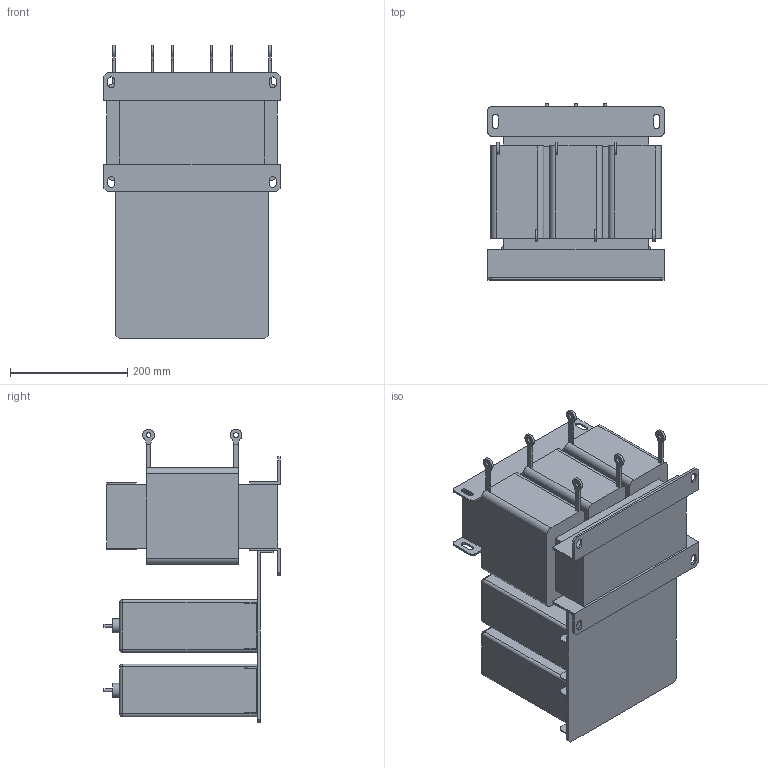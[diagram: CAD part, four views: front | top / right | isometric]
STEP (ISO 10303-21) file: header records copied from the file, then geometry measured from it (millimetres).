
FILE_DESCRIPTION(/* description */ (''),/* implementation_level */ '2;1');
FILE_NAME(/* name */ 'Sin-T6-070.stp',/* time_stamp */ '2025-03-05T16:24:56+04:00',/* author */ ('Лео'),/* organization */ (''),/* preprocessor_version */ 'ST-DEVELOPER v19.2',/* originating_system */ 'Autodesk Inventor 2024',/* authorisation */ '');
FILE_SCHEMA (('AUTOMOTIVE_DESIGN { 1 0 10303 214 3 1 1 }'));
Length unit declared in the file: millimetre
Products named in the file (1): Sin-T6-070
Bounding box: 300 x 300 x 499.96 mm (x, y, z)
Volume: 19901584.5 mm3; surface area: 1264717.6 mm2
Topology: 26 solids, 26 shells, 316 faces, 740 edges, 482 vertices
Faces by surface type: plane 212, cylinder 96, sphere 8
Full cylindrical faces by diameter (mm): 5 x6, 8 x6, 24 x6
Entity records: 9074 total; most frequent: DIRECTION 1566, CARTESIAN_POINT 1539, ORIENTED_EDGE 1480, EDGE_CURVE 740, LINE 548, VECTOR 548, AXIS2_PLACEMENT_3D 509, VERTEX_POINT 482
